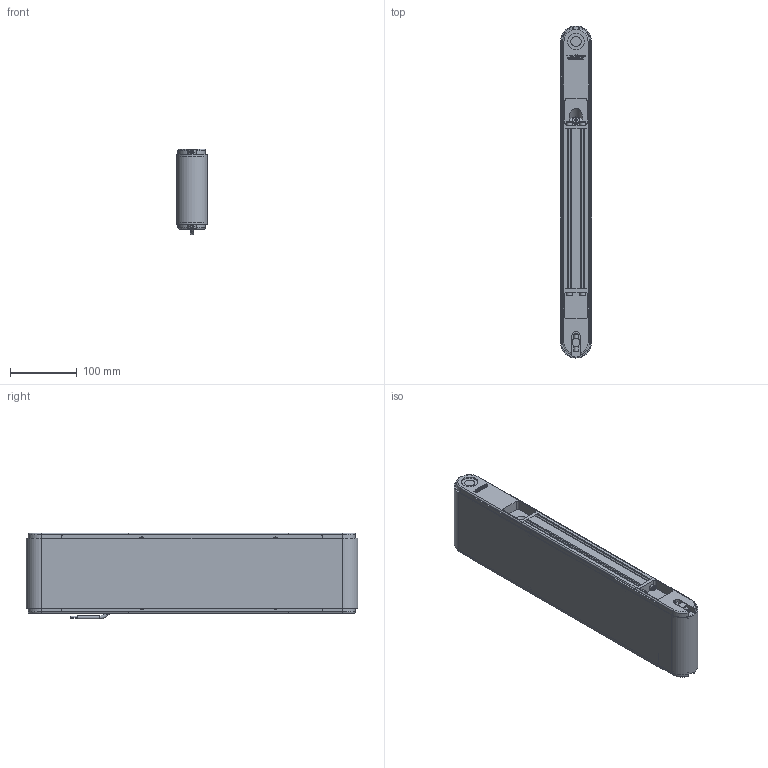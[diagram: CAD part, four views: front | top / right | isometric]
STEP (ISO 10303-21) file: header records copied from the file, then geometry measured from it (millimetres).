
FILE_DESCRIPTION(/* description */ (''),/* implementation_level */ '2;1');
FILE_NAME(/* name */ 'G:\DATEN\CAD\Förderband\Marketing\3D-Modelle (Standard)\FR-40-120\FR-40-120-450-K.stp',/* time_stamp */ '2019-05-08T08:30:17+02:00',/* author */ ('melanie.ochs'),/* organization */ (''),/* preprocessor_version */ 'ST-DEVELOPER v17',/* originating_system */ 'Autodesk Inventor 2019',/* authorisation */ '');
FILE_SCHEMA (('CONFIG_CONTROL_DESIGN'));
Length unit declared in the file: centimetre
Products named in the file (1): FR-40-120-450-K
Bounding box: 46.6 x 496.6 x 128.53 mm (x, y, z)
Volume: 1376624.2 mm3; surface area: 448577.9 mm2
Topology: 6 solids, 29 shells, 1033 faces, 2809 edges, 1878 vertices
Faces by surface type: plane 531, cylinder 285, bspline 122, cone 70, torus 25
Full cylindrical faces by diameter (mm): 2 x2, 4 x6, 4.3 x4, 4.64 x2, 4.917 x3, 5 x11, 5.5 x8, 6 x6, 6.5 x1, 6.647 x3, 8 x4, 8.3 x4, 8.5 x8, 8.773 x1, 10 x1, 11 x1, 12 x4, 15 x4, 20 x4, 25 x2, 28 x4
Entity records: 35166 total; most frequent: CARTESIAN_POINT 8354, ORIENTED_EDGE 5594, DIRECTION 5063, EDGE_CURVE 2797, VERTEX_POINT 1878, AXIS2_PLACEMENT_3D 1753, LINE 1557, VECTOR 1557
